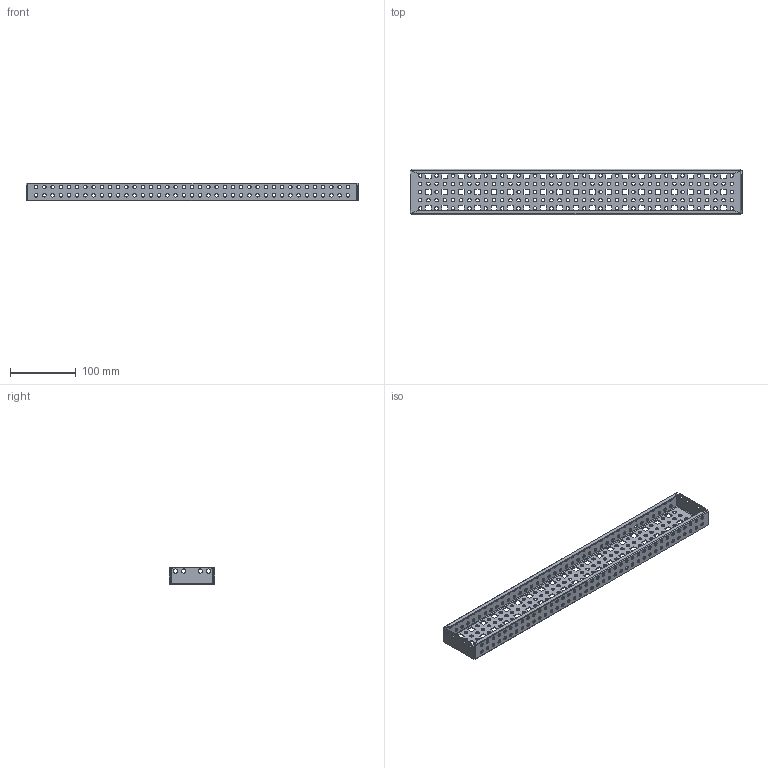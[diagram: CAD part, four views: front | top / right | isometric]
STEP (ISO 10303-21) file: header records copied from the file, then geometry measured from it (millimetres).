
FILE_DESCRIPTION (( 'STEP AP214' ), '1' );
FILE_NAME ('YKM40D-FO-VRB-060 Ðåéêà ìîíòàæíàÿ òèï B.STEP', '2025-08-14T07:05:47', ( '' ), ( '' ), 'SwSTEP 2.0', 'SolidWorks 2023', '' );
FILE_SCHEMA (( 'AUTOMOTIVE_DESIGN' ));
Length unit declared in the file: millimetre
Products named in the file (1): YKM40D-FO-VRB-060 Рейка монтажная тип B
Bounding box: 506 x 69 x 27 mm (x, y, z)
Volume: 85905.3 mm3; surface area: 125107.7 mm2
Topology: 1 solids, 1 shells, 878 faces, 2620 edges, 1744 vertices
Faces by surface type: cylinder 604, plane 274
Entity records: 31527 total; most frequent: DIRECTION 5586, CARTESIAN_POINT 5243, ORIENTED_EDGE 5240, EDGE_CURVE 2620, AXIS2_PLACEMENT_3D 2087, VERTEX_POINT 1744, EDGE_LOOP 1596, VECTOR 1412
